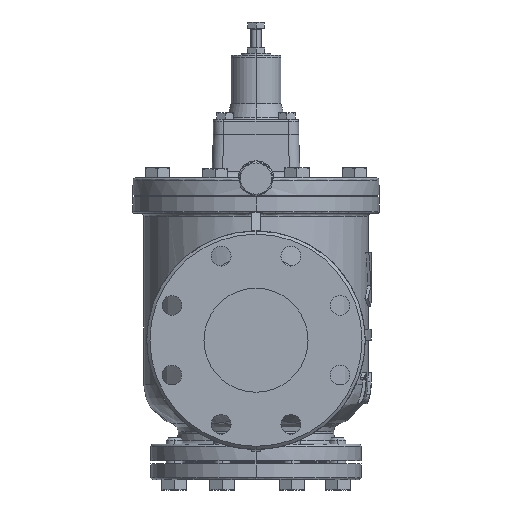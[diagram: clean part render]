
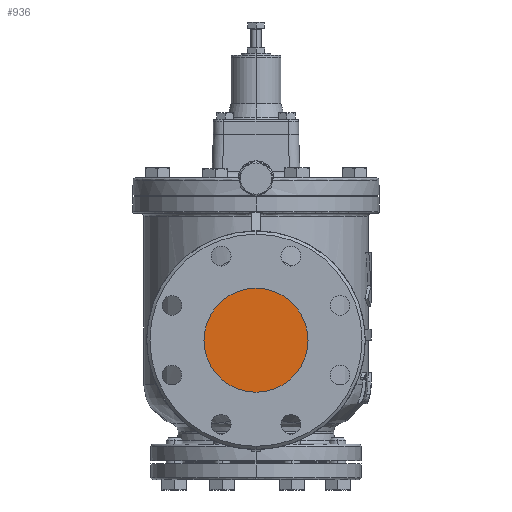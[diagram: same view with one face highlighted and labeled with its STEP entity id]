
A CAD part, left-side view. The second image highlights one B-rep face of the part: STEP entity #936.
In plain terms, the highlighted planar face has unit normal (-1, 0, 0).
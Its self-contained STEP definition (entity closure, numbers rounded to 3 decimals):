
#936=ADVANCED_FACE('',(#3592),#3591,.T.);
#3591=PLANE('',#12595);
#3592=FACE_OUTER_BOUND('',#12596,.T.);
#12592=CARTESIAN_POINT('',(-285.814,-96.603,-322.577));
#12593=DIRECTION('',(-1.,0.,0.));
#12594=DIRECTION('',(0.,0.,1.));
#12595=AXIS2_PLACEMENT_3D('',#12592,#12593,#12594);
#12596=EDGE_LOOP('',(#19470,#19471));
#19470=ORIENTED_EDGE('',*,*,#22662,.F.);
#19471=ORIENTED_EDGE('',*,*,#22663,.F.);
#22662=EDGE_CURVE('',#28558,#28559,#28560,.T.);
#22663=EDGE_CURVE('',#28559,#28558,#28566,.T.);
#28558=VERTEX_POINT('',#41891);
#28559=VERTEX_POINT('',#41892);
#28560=CIRCLE('',#41896,50.);
#28566=CIRCLE('',#41900,50.);
#41891=CARTESIAN_POINT('',(-285.814,0.,-262.577));
#41892=CARTESIAN_POINT('',(-285.814,0.,-162.577));
#41893=CARTESIAN_POINT('',(-285.814,0.,-212.577));
#41894=DIRECTION('',(1.,0.,0.));
#41895=DIRECTION('',(0.,0.,1.));
#41896=AXIS2_PLACEMENT_3D('',#41893,#41894,#41895);
#41897=CARTESIAN_POINT('',(-285.814,0.,-212.577));
#41898=DIRECTION('',(1.,0.,0.));
#41899=DIRECTION('',(0.,0.,1.));
#41900=AXIS2_PLACEMENT_3D('',#41897,#41898,#41899);
